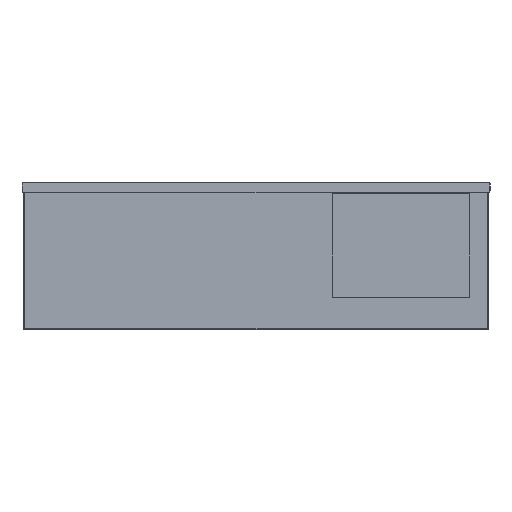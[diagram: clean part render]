
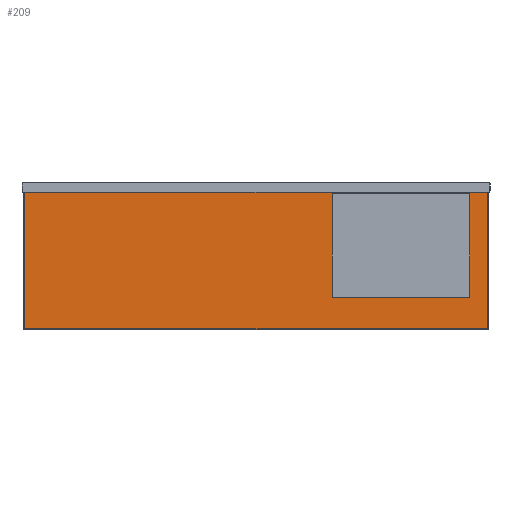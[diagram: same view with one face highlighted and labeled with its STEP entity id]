
A CAD part, left-side view. The second image highlights one B-rep face of the part: STEP entity #209.
In plain terms, the highlighted planar face has unit normal (-1, 0, 0) as drawn and (1, 0, 0) by its records, which use the part's own axes.
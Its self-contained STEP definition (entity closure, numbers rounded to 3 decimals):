
#13 = DIRECTION ( 'NONE',  ( 0., 1., 0. ) ) ;
#20 = VECTOR ( 'NONE', #2172, 1000. ) ;
#67 = EDGE_LOOP ( 'NONE', ( #1778, #1244, #483, #3077 ) ) ;
#167 = CARTESIAN_POINT ( 'NONE',  ( 135.464, 67.664, -303.047 ) ) ;
#209 = ADVANCED_FACE ( 'NONE', ( #2803, #3008 ), #1479, .T. ) ;
#218 = LINE ( 'NONE', #2851, #1266 ) ;
#276 = LINE ( 'NONE', #800, #1380 ) ;
#332 = VERTEX_POINT ( 'NONE', #1317 ) ;
#346 = ORIENTED_EDGE ( 'NONE', *, *, #1754, .T. ) ;
#363 = EDGE_CURVE ( 'NONE', #2835, #1573, #2837, .T. ) ;
#370 = ORIENTED_EDGE ( 'NONE', *, *, #1671, .T. ) ;
#377 = CARTESIAN_POINT ( 'NONE',  ( 135.464, 62.132, 39.743 ) ) ;
#404 = VERTEX_POINT ( 'NONE', #2623 ) ;
#410 = LINE ( 'NONE', #2522, #2446 ) ;
#475 = CARTESIAN_POINT ( 'NONE',  ( 135.464, 67.664, 39.797 ) ) ;
#483 = ORIENTED_EDGE ( 'NONE', *, *, #363, .F. ) ;
#522 = LINE ( 'NONE', #3175, #20 ) ;
#583 = VERTEX_POINT ( 'NONE', #2674 ) ;
#586 = VERTEX_POINT ( 'NONE', #377 ) ;
#590 = CARTESIAN_POINT ( 'NONE',  ( 135.464, 22.132, 39.743 ) ) ;
#678 = DIRECTION ( 'NONE',  ( 0., 0., -1. ) ) ;
#708 = DIRECTION ( 'NONE',  ( 1., 0., 0. ) ) ;
#723 = EDGE_CURVE ( 'NONE', #586, #2740, #218, .T. ) ;
#753 = VERTEX_POINT ( 'NONE', #2238 ) ;
#791 = LINE ( 'NONE', #1837, #2969 ) ;
#800 = CARTESIAN_POINT ( 'NONE',  ( 135.464, 22.132, 41.132 ) ) ;
#813 = EDGE_CURVE ( 'NONE', #2740, #332, #522, .T. ) ;
#856 = EDGE_CURVE ( 'NONE', #2835, #753, #791, .T. ) ;
#867 = DIRECTION ( 'NONE',  ( 0., 1., 0. ) ) ;
#878 = AXIS2_PLACEMENT_3D ( 'NONE', #167, #708, #678 ) ;
#1101 = EDGE_CURVE ( 'NONE', #583, #2308, #2783, .T. ) ;
#1121 = CARTESIAN_POINT ( 'NONE',  ( 135.464, 62.132, 39.397 ) ) ;
#1244 = ORIENTED_EDGE ( 'NONE', *, *, #2877, .T. ) ;
#1257 = DIRECTION ( 'NONE',  ( 0., 1., 0. ) ) ;
#1261 = CARTESIAN_POINT ( 'NONE',  ( 135.464, 67.264, 0.2 ) ) ;
#1266 = VECTOR ( 'NONE', #2486, 1000. ) ;
#1297 = CARTESIAN_POINT ( 'NONE',  ( 135.464, 67.264, 39.797 ) ) ;
#1317 = CARTESIAN_POINT ( 'NONE',  ( 135.464, 62.132, 9.332 ) ) ;
#1380 = VECTOR ( 'NONE', #3155, 1000. ) ;
#1479 = PLANE ( 'NONE',  #878 ) ;
#1494 = VECTOR ( 'NONE', #1859, 1000. ) ;
#1516 = LINE ( 'NONE', #1534, #3266 ) ;
#1518 = VECTOR ( 'NONE', #13, 1000. ) ;
#1534 = CARTESIAN_POINT ( 'NONE',  ( 135.464, 67.664, 0.2 ) ) ;
#1554 = VECTOR ( 'NONE', #867, 1000. ) ;
#1569 = EDGE_CURVE ( 'NONE', #404, #583, #276, .T. ) ;
#1573 = VERTEX_POINT ( 'NONE', #1297 ) ;
#1671 = EDGE_CURVE ( 'NONE', #332, #404, #3382, .T. ) ;
#1722 = CARTESIAN_POINT ( 'NONE',  ( 135.464, -67.264, 39.797 ) ) ;
#1730 = CARTESIAN_POINT ( 'NONE',  ( 135.464, 22.132, 39.397 ) ) ;
#1754 = EDGE_CURVE ( 'NONE', #2308, #586, #2725, .T. ) ;
#1755 = DIRECTION ( 'NONE',  ( 0., 0., 1. ) ) ;
#1778 = ORIENTED_EDGE ( 'NONE', *, *, #3074, .T. ) ;
#1837 = CARTESIAN_POINT ( 'NONE',  ( 135.464, -67.264, -0.2 ) ) ;
#1859 = DIRECTION ( 'NONE',  ( 0., -1., 0. ) ) ;
#1918 = ORIENTED_EDGE ( 'NONE', *, *, #813, .T. ) ;
#1984 = VECTOR ( 'NONE', #2043, 1000. ) ;
#2043 = DIRECTION ( 'NONE',  ( 0., 0., 1. ) ) ;
#2168 = ORIENTED_EDGE ( 'NONE', *, *, #1101, .T. ) ;
#2172 = DIRECTION ( 'NONE',  ( 0., 0., -1. ) ) ;
#2238 = CARTESIAN_POINT ( 'NONE',  ( 135.464, -67.264, 0.2 ) ) ;
#2308 = VERTEX_POINT ( 'NONE', #590 ) ;
#2446 = VECTOR ( 'NONE', #1755, 1000. ) ;
#2486 = DIRECTION ( 'NONE',  ( 0., 0., -1. ) ) ;
#2522 = CARTESIAN_POINT ( 'NONE',  ( 135.464, 67.264, 39.797 ) ) ;
#2577 = ORIENTED_EDGE ( 'NONE', *, *, #723, .T. ) ;
#2590 = VERTEX_POINT ( 'NONE', #1261 ) ;
#2623 = CARTESIAN_POINT ( 'NONE',  ( 135.464, 22.132, 9.332 ) ) ;
#2674 = CARTESIAN_POINT ( 'NONE',  ( 135.464, 22.132, 39.397 ) ) ;
#2725 = LINE ( 'NONE', #2930, #1554 ) ;
#2740 = VERTEX_POINT ( 'NONE', #1121 ) ;
#2750 = ORIENTED_EDGE ( 'NONE', *, *, #1569, .T. ) ;
#2783 = LINE ( 'NONE', #1730, #1984 ) ;
#2803 = FACE_BOUND ( 'NONE', #2840, .T. ) ;
#2835 = VERTEX_POINT ( 'NONE', #1722 ) ;
#2837 = LINE ( 'NONE', #475, #1518 ) ;
#2840 = EDGE_LOOP ( 'NONE', ( #1918, #370, #2750, #2168, #346, #2577 ) ) ;
#2851 = CARTESIAN_POINT ( 'NONE',  ( 135.464, 62.132, 39.397 ) ) ;
#2877 = EDGE_CURVE ( 'NONE', #2590, #1573, #410, .T. ) ;
#2888 = DIRECTION ( 'NONE',  ( 0., 0., -1. ) ) ;
#2930 = CARTESIAN_POINT ( 'NONE',  ( 135.464, 2.129, 39.743 ) ) ;
#2969 = VECTOR ( 'NONE', #2888, 1000. ) ;
#3008 = FACE_OUTER_BOUND ( 'NONE', #67, .T. ) ;
#3074 = EDGE_CURVE ( 'NONE', #753, #2590, #1516, .T. ) ;
#3077 = ORIENTED_EDGE ( 'NONE', *, *, #856, .T. ) ;
#3155 = DIRECTION ( 'NONE',  ( 0., 0., 1. ) ) ;
#3170 = CARTESIAN_POINT ( 'NONE',  ( 135.464, 22.132, 9.332 ) ) ;
#3175 = CARTESIAN_POINT ( 'NONE',  ( 135.464, 62.132, 41.132 ) ) ;
#3266 = VECTOR ( 'NONE', #1257, 1000. ) ;
#3382 = LINE ( 'NONE', #3170, #1494 ) ;
